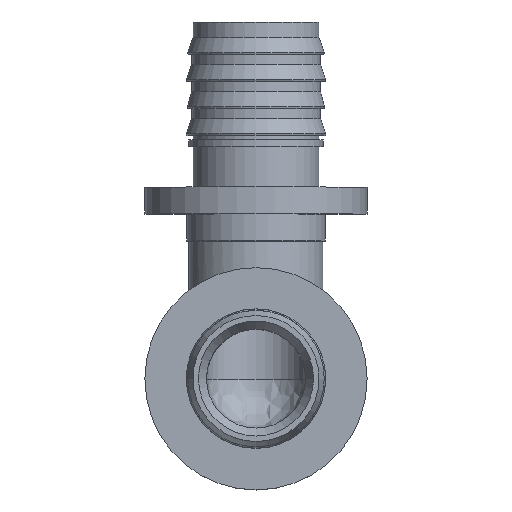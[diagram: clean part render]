
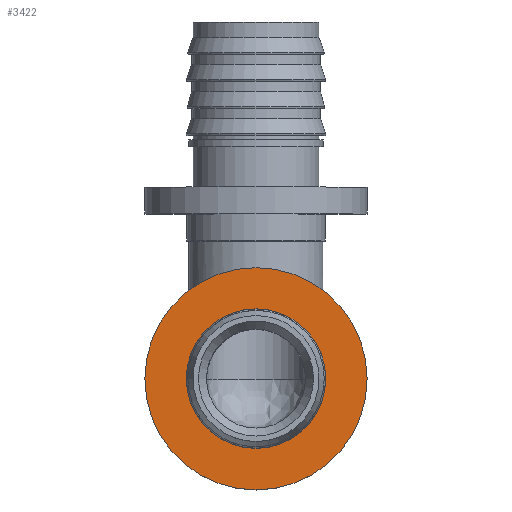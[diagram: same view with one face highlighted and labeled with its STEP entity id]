
A CAD part, top view. The second image highlights one B-rep face of the part: STEP entity #3422.
In plain terms, the highlighted planar face has unit normal (0, 0, 1).
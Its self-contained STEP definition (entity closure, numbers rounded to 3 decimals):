
#141=PLANE('',#3695);
#189=FACE_BOUND('',#521,.T.);
#323=FACE_OUTER_BOUND('',#520,.T.);
#520=EDGE_LOOP('',(#2949,#2950));
#521=EDGE_LOOP('',(#2951,#2952));
#1202=CIRCLE('',#3582,9.313);
#1203=CIRCLE('',#3583,9.313);
#1286=CIRCLE('',#3696,16.5);
#1287=CIRCLE('',#3697,16.5);
#1532=VERTEX_POINT('',#7075);
#1533=VERTEX_POINT('',#7077);
#1615=VERTEX_POINT('',#7291);
#1616=VERTEX_POINT('',#7292);
#1990=EDGE_CURVE('',#1533,#1532,#1202,.T.);
#1991=EDGE_CURVE('',#1532,#1533,#1203,.T.);
#2092=EDGE_CURVE('',#1615,#1616,#1286,.T.);
#2093=EDGE_CURVE('',#1616,#1615,#1287,.T.);
#2949=ORIENTED_EDGE('',*,*,#2092,.T.);
#2950=ORIENTED_EDGE('',*,*,#2093,.T.);
#2951=ORIENTED_EDGE('',*,*,#1990,.T.);
#2952=ORIENTED_EDGE('',*,*,#1991,.T.);
#3422=ADVANCED_FACE('',(#323,#189),#141,.T.);
#3582=AXIS2_PLACEMENT_3D('',#7078,#4070,#4071);
#3583=AXIS2_PLACEMENT_3D('',#7079,#4072,#4073);
#3695=AXIS2_PLACEMENT_3D('',#7290,#4314,#4315);
#3696=AXIS2_PLACEMENT_3D('',#7293,#4316,#4317);
#3697=AXIS2_PLACEMENT_3D('',#7294,#4318,#4319);
#4070=DIRECTION('center_axis',(0.,0.,-1.));
#4071=DIRECTION('ref_axis',(1.,0.,0.));
#4072=DIRECTION('center_axis',(0.,0.,-1.));
#4073=DIRECTION('ref_axis',(1.,0.,0.));
#4314=DIRECTION('center_axis',(0.,0.,1.));
#4315=DIRECTION('ref_axis',(1.,0.,0.));
#4316=DIRECTION('center_axis',(0.,0.,1.));
#4317=DIRECTION('ref_axis',(1.,0.,0.));
#4318=DIRECTION('center_axis',(0.,0.,1.));
#4319=DIRECTION('ref_axis',(1.,0.,0.));
#7075=CARTESIAN_POINT('',(0.,-62.313,28.5));
#7077=CARTESIAN_POINT('',(0.,-43.687,28.5));
#7078=CARTESIAN_POINT('Origin',(0.,-53.,28.5));
#7079=CARTESIAN_POINT('Origin',(0.,-53.,28.5));
#7290=CARTESIAN_POINT('Origin',(0.,-43.687,28.5));
#7291=CARTESIAN_POINT('',(0.,-36.5,28.5));
#7292=CARTESIAN_POINT('',(0.,-69.5,28.5));
#7293=CARTESIAN_POINT('Origin',(0.,-53.,28.5));
#7294=CARTESIAN_POINT('Origin',(0.,-53.,28.5));
